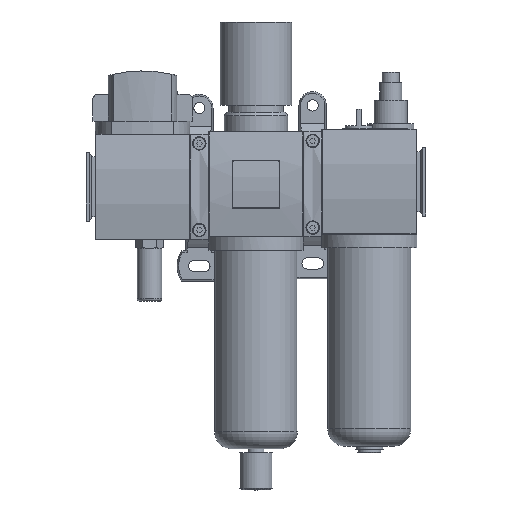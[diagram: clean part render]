
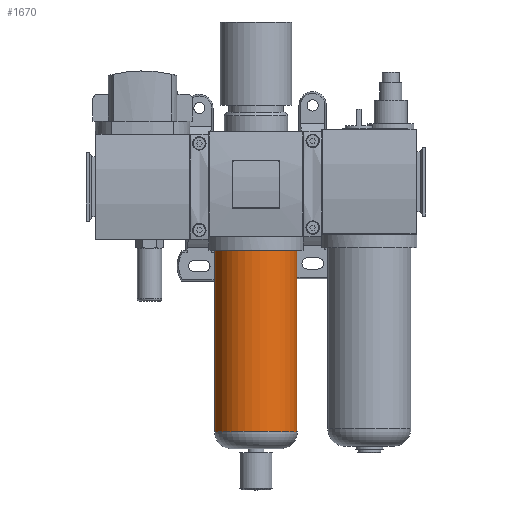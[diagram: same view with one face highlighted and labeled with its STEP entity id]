
A CAD part, top view. The second image highlights one B-rep face of the part: STEP entity #1670.
In plain terms, the highlighted cylindrical face has radius 24.25 mm (diameter 48.5 mm), a full revolution.
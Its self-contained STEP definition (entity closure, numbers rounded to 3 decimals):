
#1670 = ADVANCED_FACE( '', ( #3524, #3525 ), #3526, .T. );
#3524 = FACE_OUTER_BOUND( '', #5678, .T. );
#3525 = FACE_OUTER_BOUND( '', #5679, .T. );
#3526 = CYLINDRICAL_SURFACE( '', #5680, 24.25 );
#5678 = EDGE_LOOP( '', ( #9516 ) );
#5679 = EDGE_LOOP( '', ( #9517 ) );
#5680 = AXIS2_PLACEMENT_3D( '', #9518, #9519, #9520 );
#9516 = ORIENTED_EDGE( '', *, *, #13828, .F. );
#9517 = ORIENTED_EDGE( '', *, *, #12697, .T. );
#9518 = CARTESIAN_POINT( '', ( 0., -115.5, 0. ) );
#9519 = DIRECTION( '', ( 0., 1., 0. ) );
#9520 = DIRECTION( '', ( 0., 0., -1. ) );
#12697 = EDGE_CURVE( '', #15097, #15097, #15098, .T. );
#13828 = EDGE_CURVE( '', #16871, #16871, #16872, .T. );
#15097 = VERTEX_POINT( '', #18503 );
#15098 = CIRCLE( '', #18504, 24.25 );
#16871 = VERTEX_POINT( '', #21377 );
#16872 = CIRCLE( '', #21378, 24.25 );
#18503 = CARTESIAN_POINT( '', ( 0., 0., -24.25 ) );
#18504 = AXIS2_PLACEMENT_3D( '', #22969, #22970, #22971 );
#21377 = CARTESIAN_POINT( '', ( 0., -105.5, -24.25 ) );
#21378 = AXIS2_PLACEMENT_3D( '', #24084, #24085, #24086 );
#22969 = CARTESIAN_POINT( '', ( 0., 0., 0. ) );
#22970 = DIRECTION( '', ( 0., -1., 0. ) );
#22971 = DIRECTION( '', ( 0., 0., -1. ) );
#24084 = CARTESIAN_POINT( '', ( 0., -105.5, 0. ) );
#24085 = DIRECTION( '', ( 0., -1., 0. ) );
#24086 = DIRECTION( '', ( 0., 0., -1. ) );
